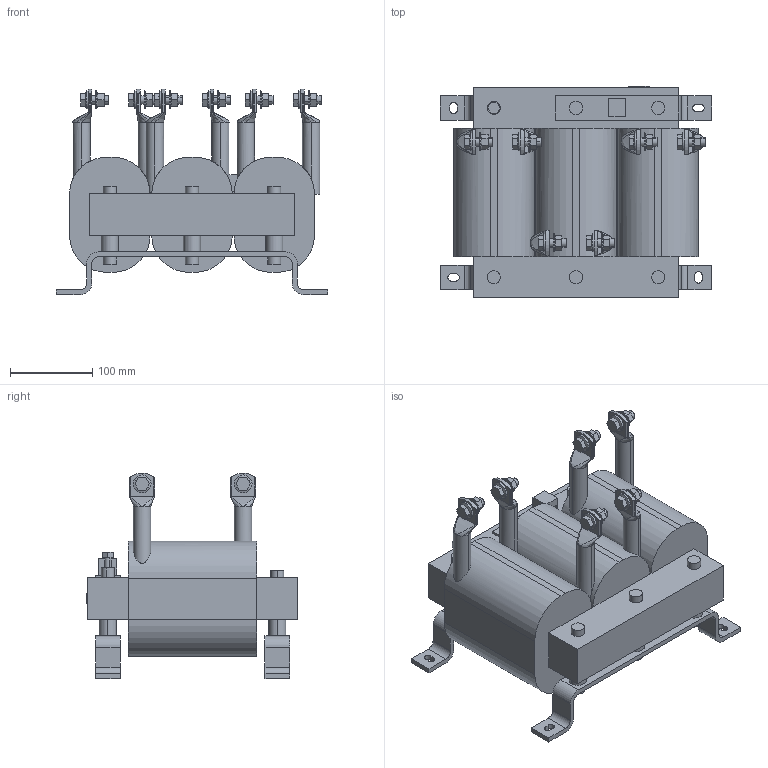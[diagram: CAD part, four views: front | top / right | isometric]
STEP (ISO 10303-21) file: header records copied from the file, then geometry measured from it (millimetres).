
FILE_DESCRIPTION (( 'STEP AP214' ), '1' );
FILE_NAME ('00Z1BX0-0027.STEP', '2024-05-15T07:29:14', ( '' ), ( '' ), 'SwSTEP 2.0', 'SolidWorks 2022', '' );
FILE_SCHEMA (( 'AUTOMOTIVE_DESIGN' ));
Length unit declared in the file: millimetre
Products named in the file (1): 00Z1BX0-0027
Bounding box: 330 x 257.62 x 249.91 mm (x, y, z)
Volume: 7334758 mm3; surface area: 444148.1 mm2
Topology: 1 solids, 1 shells, 576 faces, 1451 edges, 930 vertices
Faces by surface type: plane 282, cylinder 197, bspline 61, cone 24, torus 12
Entity records: 22046 total; most frequent: CARTESIAN_POINT 8466, ORIENTED_EDGE 2902, DIRECTION 2507, EDGE_CURVE 1451, VERTEX_POINT 930, AXIS2_PLACEMENT_3D 887, VECTOR 733, LINE 733
